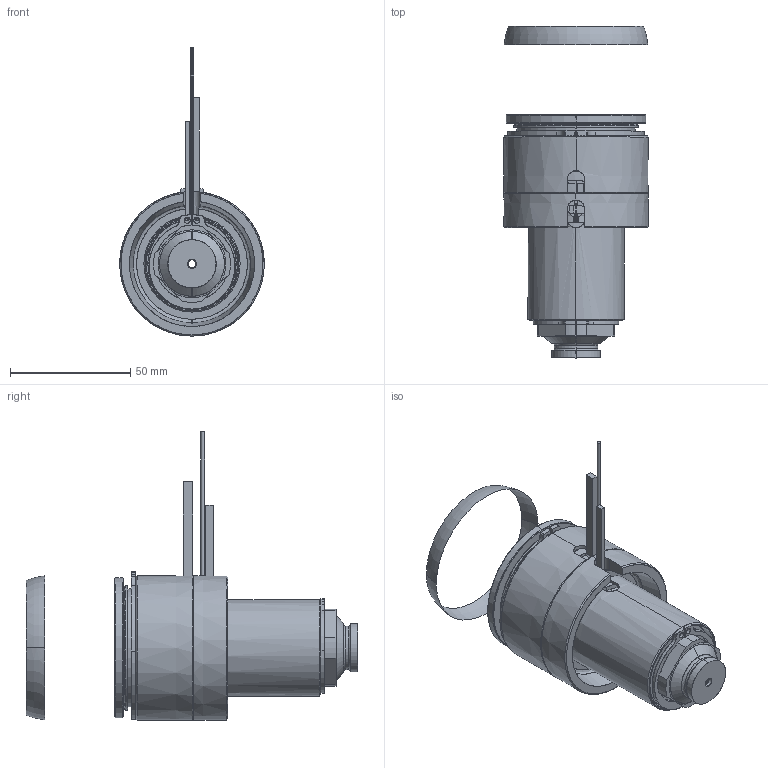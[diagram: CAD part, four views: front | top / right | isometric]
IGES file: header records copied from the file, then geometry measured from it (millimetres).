
Start section: SolidWorks IGES file using analytic representation for surfaces
Global section: file name: C:\Documents and Settings\ws-20\Desktop\TEM\UGER6602-S-A-1 [Øb-3.3 P-0 ØC-16].IGS; native system: SolidWorks 2012; preprocessor: SolidWorks 2012; author: ws-20; date: 120417.123340; units: millimetre
Bounding box: 60 x 137.77 x 119.65 mm (x, y, z)
Surface area: 60101.2 mm2 (no closed solid volume)
Topology: 0 solids, 0 shells, 173 faces, 3398 edges, 3398 vertices
Faces by surface type: revolution 107, bspline 66
